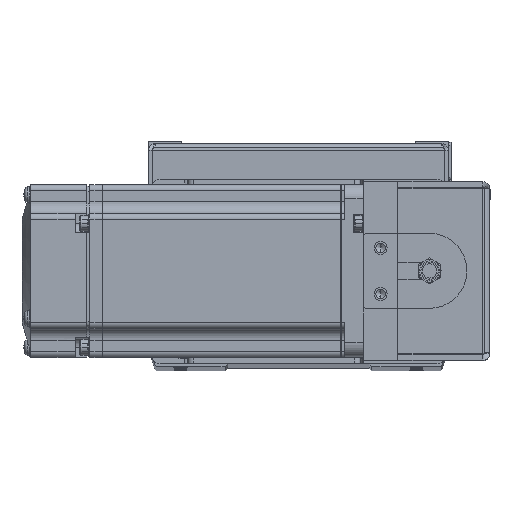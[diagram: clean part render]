
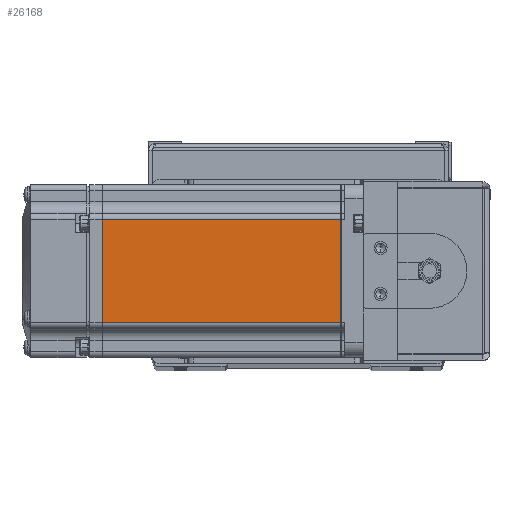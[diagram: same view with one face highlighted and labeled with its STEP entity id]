
A CAD part, top view. The second image highlights one B-rep face of the part: STEP entity #26168.
In plain terms, the highlighted planar face has unit normal (0, 0, 1) as drawn and (0, -1, 0) by its records, which use the part's own axes.
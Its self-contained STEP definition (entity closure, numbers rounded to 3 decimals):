
#260 = DIRECTION ( 'NONE',  ( 0., -1., 0. ) ) ;
#1032 = CARTESIAN_POINT ( 'NONE',  ( -6.5, -30., 18. ) ) ;
#2445 = VECTOR ( 'NONE', #36370, 1000. ) ;
#3706 = VERTEX_POINT ( 'NONE', #33278 ) ;
#5102 = LINE ( 'NONE', #36632, #2445 ) ;
#5448 = VERTEX_POINT ( 'NONE', #17270 ) ;
#5889 = CARTESIAN_POINT ( 'NONE',  ( -90.45, -30., 18. ) ) ;
#8398 = ORIENTED_EDGE ( 'NONE', *, *, #47481, .F. ) ;
#8977 = VECTOR ( 'NONE', #32567, 1000. ) ;
#9580 = VECTOR ( 'NONE', #47834, 1000. ) ;
#13146 = EDGE_CURVE ( 'NONE', #3706, #16863, #44726, .T. ) ;
#15304 = LINE ( 'NONE', #31085, #35543 ) ;
#16018 = DIRECTION ( 'NONE',  ( 0., 0., -1. ) ) ;
#16863 = VERTEX_POINT ( 'NONE', #5889 ) ;
#17270 = CARTESIAN_POINT ( 'NONE',  ( -7.75, -30., -18. ) ) ;
#19980 = EDGE_LOOP ( 'NONE', ( #8398, #32845, #48283, #43270 ) ) ;
#20422 = CARTESIAN_POINT ( 'NONE',  ( -6.5, -30., -25. ) ) ;
#21194 = CARTESIAN_POINT ( 'NONE',  ( -90.45, -30., -18. ) ) ;
#24602 = EDGE_CURVE ( 'NONE', #16863, #30027, #15304, .T. ) ;
#24856 = LINE ( 'NONE', #33543, #9580 ) ;
#26168 = ADVANCED_FACE ( 'NONE', ( #47556 ), #43932, .T. ) ;
#30027 = VERTEX_POINT ( 'NONE', #21194 ) ;
#31085 = CARTESIAN_POINT ( 'NONE',  ( -90.45, -30., 0. ) ) ;
#31697 = EDGE_CURVE ( 'NONE', #5448, #30027, #24856, .T. ) ;
#32567 = DIRECTION ( 'NONE',  ( -1., 0., 0. ) ) ;
#32845 = ORIENTED_EDGE ( 'NONE', *, *, #13146, .T. ) ;
#33278 = CARTESIAN_POINT ( 'NONE',  ( -7.75, -30., 18. ) ) ;
#33543 = CARTESIAN_POINT ( 'NONE',  ( -6.5, -30., -18. ) ) ;
#35543 = VECTOR ( 'NONE', #46844, 1000. ) ;
#36370 = DIRECTION ( 'NONE',  ( 0., 0., -1. ) ) ;
#36632 = CARTESIAN_POINT ( 'NONE',  ( -7.75, -30., 0. ) ) ;
#43270 = ORIENTED_EDGE ( 'NONE', *, *, #31697, .F. ) ;
#43932 = PLANE ( 'NONE',  #46341 ) ;
#44726 = LINE ( 'NONE', #1032, #8977 ) ;
#46341 = AXIS2_PLACEMENT_3D ( 'NONE', #20422, #260, #16018 ) ;
#46844 = DIRECTION ( 'NONE',  ( 0., 0., -1. ) ) ;
#47481 = EDGE_CURVE ( 'NONE', #3706, #5448, #5102, .T. ) ;
#47556 = FACE_OUTER_BOUND ( 'NONE', #19980, .T. ) ;
#47834 = DIRECTION ( 'NONE',  ( -1., 0., 0. ) ) ;
#48283 = ORIENTED_EDGE ( 'NONE', *, *, #24602, .T. ) ;
